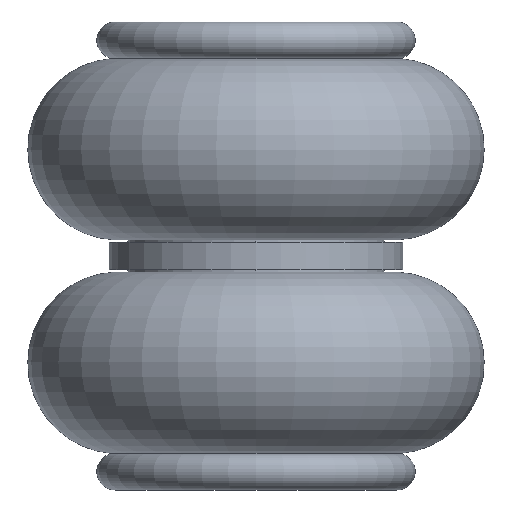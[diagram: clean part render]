
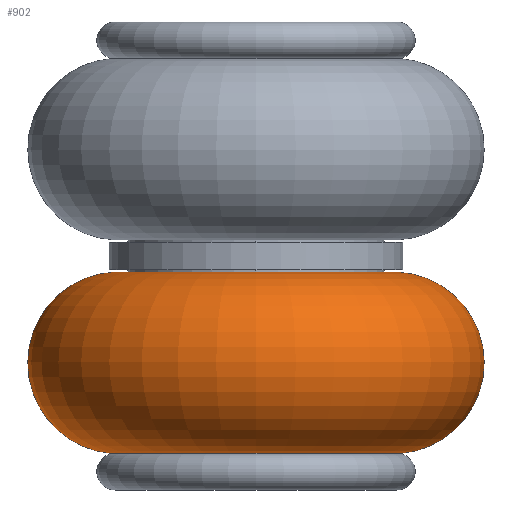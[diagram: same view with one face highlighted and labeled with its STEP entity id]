
A CAD part, left-side view. The second image highlights one B-rep face of the part: STEP entity #902.
In plain terms, the highlighted toroidal (fillet/blend) face has major radius 60.15 mm and minor radius 39.8 mm.
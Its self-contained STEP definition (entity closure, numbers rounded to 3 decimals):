
#6=CARTESIAN_POINT('',(0.,0.,-7.05));
#7=DIRECTION('',(0.,0.,-1.));
#8=DIRECTION('',(0.,-1.,0.));
#9=AXIS2_PLACEMENT_3D('',#6,#7,#8);
#15=CARTESIAN_POINT('',(0.,0.,-86.5));
#16=DIRECTION('',(0.,0.,-1.));
#17=DIRECTION('',(0.,-1.,0.));
#18=AXIS2_PLACEMENT_3D('',#15,#16,#17);
#436=CARTESIAN_POINT('',(0.,60.15,-46.8));
#437=DIRECTION('',(-1.,0.,0.));
#438=DIRECTION('',(0.,0.05,0.999));
#439=AXIS2_PLACEMENT_3D('',#436,#437,#438);
#452=CARTESIAN_POINT('',(0.,-60.15,-46.8));
#453=DIRECTION('',(-1.,0.,0.));
#454=DIRECTION('',(0.,-0.071,-0.997));
#455=AXIS2_PLACEMENT_3D('',#452,#453,#454);
#763=CARTESIAN_POINT('',(0.,-62.97,-86.5));
#764=CARTESIAN_POINT('',(0.,62.97,-86.5));
#765=VERTEX_POINT('',#763);
#766=VERTEX_POINT('',#764);
#855=CARTESIAN_POINT('',(0.,-62.144,-7.05));
#856=CARTESIAN_POINT('',(0.,62.144,-7.05));
#857=VERTEX_POINT('',#855);
#858=VERTEX_POINT('',#856);
#887=CARTESIAN_POINT('',(0.,0.,-46.8));
#888=DIRECTION('',(0.,0.,-1.));
#889=DIRECTION('',(0.,-1.,0.));
#890=AXIS2_PLACEMENT_3D('',#887,#888,#889);
#891=TOROIDAL_SURFACE('',#890,60.15,39.8);
#893=ORIENTED_EDGE('',*,*,#892,.F.);
#895=ORIENTED_EDGE('',*,*,#894,.F.);
#897=ORIENTED_EDGE('',*,*,#896,.T.);
#899=ORIENTED_EDGE('',*,*,#898,.F.);
#900=EDGE_LOOP('',(#893,#895,#897,#899));
#901=FACE_OUTER_BOUND('',#900,.F.);
#902=ADVANCED_FACE('',(#901),#891,.T.);
#10=CIRCLE('',#9,62.144);
#19=CIRCLE('',#18,62.97);
#440=CIRCLE('',#439,39.8);
#456=CIRCLE('',#455,39.8);
#892=EDGE_CURVE('',#857,#858,#10,.T.);
#894=EDGE_CURVE('',#765,#857,#456,.T.);
#896=EDGE_CURVE('',#765,#766,#19,.T.);
#898=EDGE_CURVE('',#858,#766,#440,.T.);
